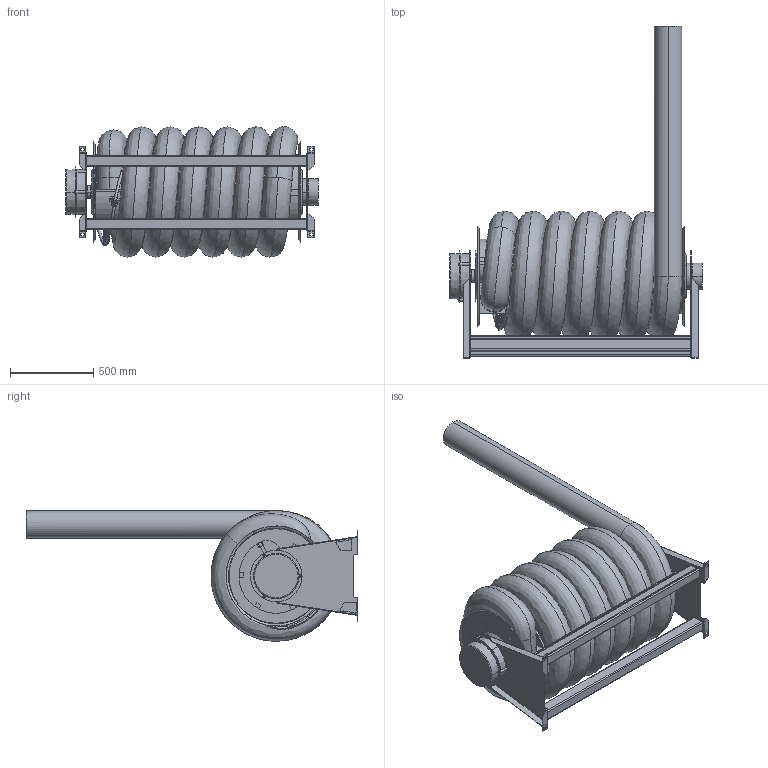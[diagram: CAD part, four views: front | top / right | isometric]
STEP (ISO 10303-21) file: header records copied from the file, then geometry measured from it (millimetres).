
FILE_DESCRIPTION((''),'2;1');
FILE_NAME('ASE_125_150-15_SW0001','2016-12-15T',('Martin Eriksson'),(''),'CREO PARAMETRIC BY PTC INC, 2016130','CREO PARAMETRIC BY PTC INC, 2016130','');
FILE_SCHEMA(('AUTOMOTIVE_DESIGN { 1 0 10303 214 1 1 1 1 }'));
Length unit declared in the file: millimetre
Products named in the file (1): ASE_125_150-15_SW0001
Bounding box: 1516 x 1991.07 x 783 mm (x, y, z)
Surface area: 12612422.1 mm2 (no closed solid volume)
Topology: 0 solids, 33 shells, 271 faces, 1053 edges, 804 vertices
Faces by surface type: plane 122, cylinder 80, torus 29, cone 22, bspline 18
Entity records: 21133 total; most frequent: CARTESIAN_POINT 10719, DIRECTION 1937, ORIENTED_EDGE 1465, EDGE_CURVE 1053, VERTEX_POINT 804, AXIS2_PLACEMENT_3D 675, VECTOR 587, LINE 587
